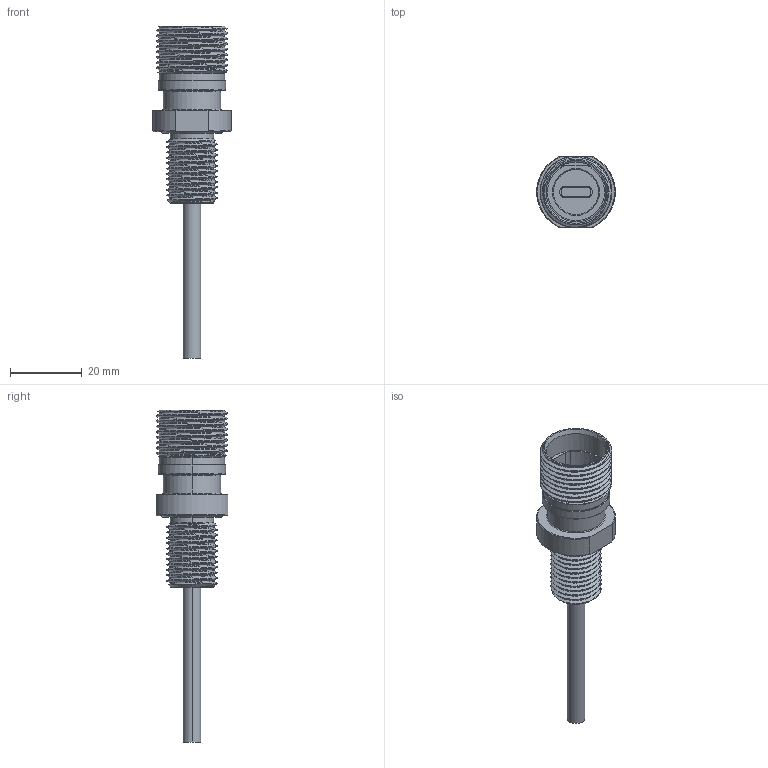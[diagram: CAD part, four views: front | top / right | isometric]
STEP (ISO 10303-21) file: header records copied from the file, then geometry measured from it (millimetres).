
FILE_DESCRIPTION (( 'STEP AP203' ), '1' );
FILE_NAME ('ASSY, BULKHEAD, COBALT 14.STEP', '2026-06-23T15:12:48', ( '' ), ( '' ), 'SwSTEP 2.0', 'SolidWorks 2024', '' );
FILE_SCHEMA (( 'CONFIG_CONTROL_DESIGN' ));
Length unit declared in the file: millimetre
Products named in the file (1): ASSY, BULKHEAD, COBALT 14
Bounding box: 22 x 20 x 92.8 mm (x, y, z)
Volume: 8205 mm3; surface area: 6498.3 mm2
Topology: 2 solids, 2 shells, 163 faces, 406 edges, 258 vertices
Faces by surface type: cylinder 81, cone 32, plane 30, torus 14, bspline 6
Entity records: 10721 total; most frequent: CARTESIAN_POINT 6961, ORIENTED_EDGE 812, DIRECTION 743, EDGE_CURVE 406, AXIS2_PLACEMENT_3D 298, VERTEX_POINT 258, EDGE_LOOP 176, FACE_OUTER_BOUND 163
